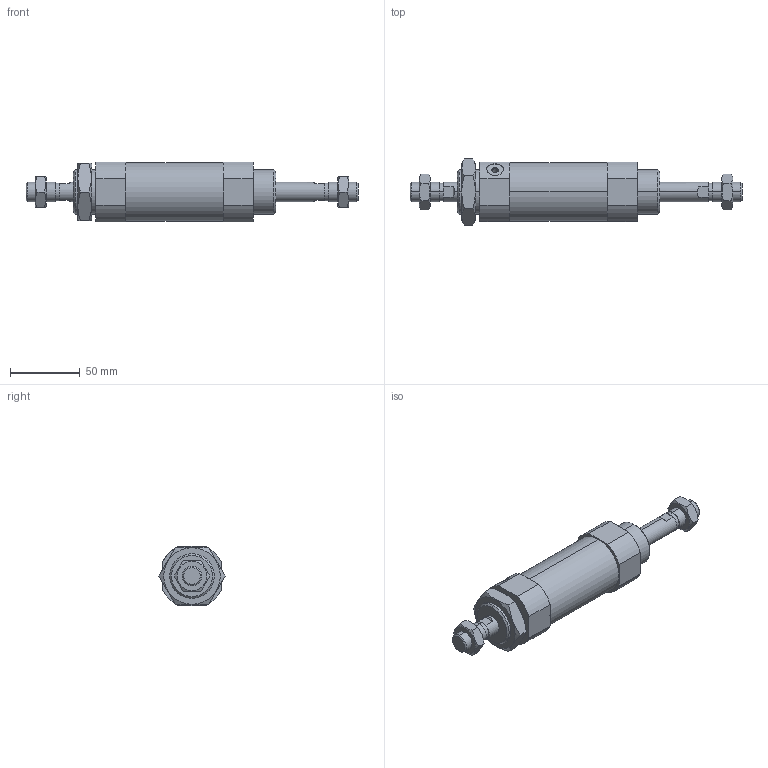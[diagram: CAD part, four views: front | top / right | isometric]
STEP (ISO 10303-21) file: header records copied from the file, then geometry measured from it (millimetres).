
FILE_DESCRIPTION (( 'STEP AP203' ), '1' );
FILE_NAME ('CSM2B40-25-P.STEP', '2020-07-20T16:49:57', ( '' ), ( '' ), 'SwSTEP 2.0', 'SolidWorks 2019', '' );
FILE_SCHEMA (( 'CONFIG_CONTROL_DESIGN' ));
Length unit declared in the file: millimetre
Products named in the file (1): CSM2B40-25-P
Bounding box: 238 x 47.34 x 42.5 mm (x, y, z)
Volume: 186749.1 mm3; surface area: 53546.8 mm2
Topology: 5 solids, 5 shells, 155 faces, 362 edges, 227 vertices
Faces by surface type: plane 63, cylinder 48, cone 44
Entity records: 5727 total; most frequent: CARTESIAN_POINT 2107, DIRECTION 750, ORIENTED_EDGE 720, EDGE_CURVE 360, AXIS2_PLACEMENT_3D 296, VERTEX_POINT 227, EDGE_LOOP 179, VECTOR 158
